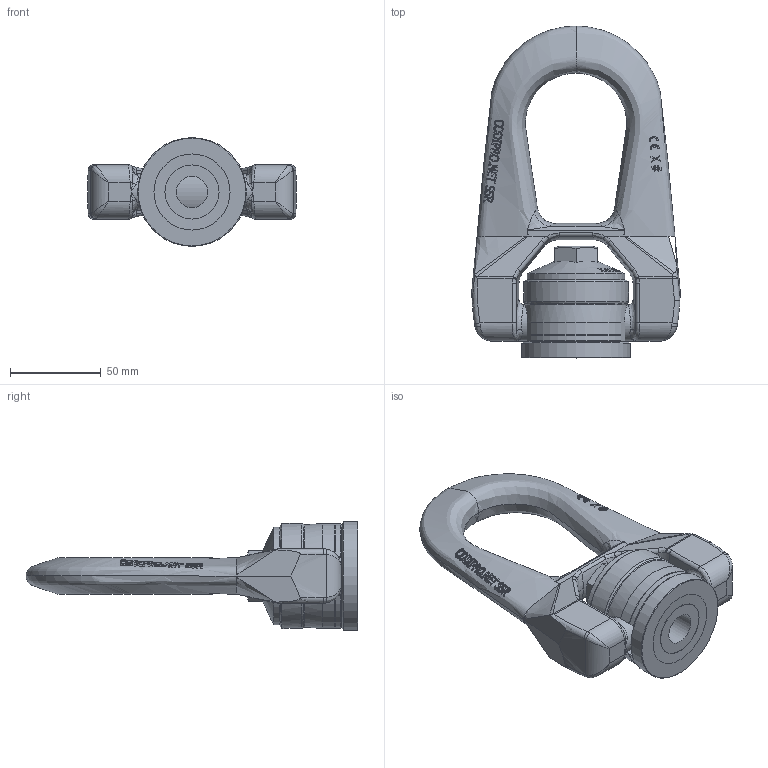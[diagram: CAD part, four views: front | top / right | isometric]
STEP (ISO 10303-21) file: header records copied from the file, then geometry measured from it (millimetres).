
FILE_DESCRIPTION(/* description */ (''),/* implementation_level */ '2;1');
FILE_NAME(/* name */ 'W:\CODIPRO\DOCUMENTS\Plans A NE PAS DIFFUSER !!!\Inventor\Standard Inventor\Produit Fini Inventor\SS_FE_DSR\Fichiers 3D\SS FE DSR M20.stp',/* time_stamp */ '2017-10-06T08:29:57+02:00',/* author */ ('rklenes'),/* organization */ (''),/* preprocessor_version */ 'ST-DEVELOPER v16.5',/* originating_system */ 'Autodesk Inventor 2017',/* authorisation */ '');
FILE_SCHEMA (('AUTOMOTIVE_DESIGN { 1 0 10303 214 3 1 1 }'));
Products named in the file (5): SS FE DSR M20; DRM_AF3B; SSB_B3B; SS_FE_DRA_M20; DRE_D3M30A
Assembly tree (4 placements, depth 2):
  SS FE DSR M20
    DRM_AF3B
    SSB_B3B
    SS_FE_DRA_M20
    DRE_D3M30A
Bounding box: 115 x 183.25 x 60 mm (x, y, z)
Volume: 300256.6 mm3; surface area: 74423.3 mm2
Topology: 4 solids, 4 shells, 746 faces, 1979 edges, 1277 vertices
Faces by surface type: plane 350, bspline 276, cylinder 70, cone 34, torus 15, sphere 1
Full cylindrical faces by diameter (mm): 17.294 x1, 20 x2, 29.92 x3, 30.12 x1, 33.6 x2, 34 x2, 46 x1, 54 x1, 58 x1, 60 x1
Entity records: 43758 total; most frequent: CARTESIAN_POINT 27263, ORIENTED_EDGE 3870, DIRECTION 2629, EDGE_CURVE 1935, VERTEX_POINT 1272, AXIS2_PLACEMENT_3D 977, EDGE_LOOP 829, FACE_OUTER_BOUND 746
